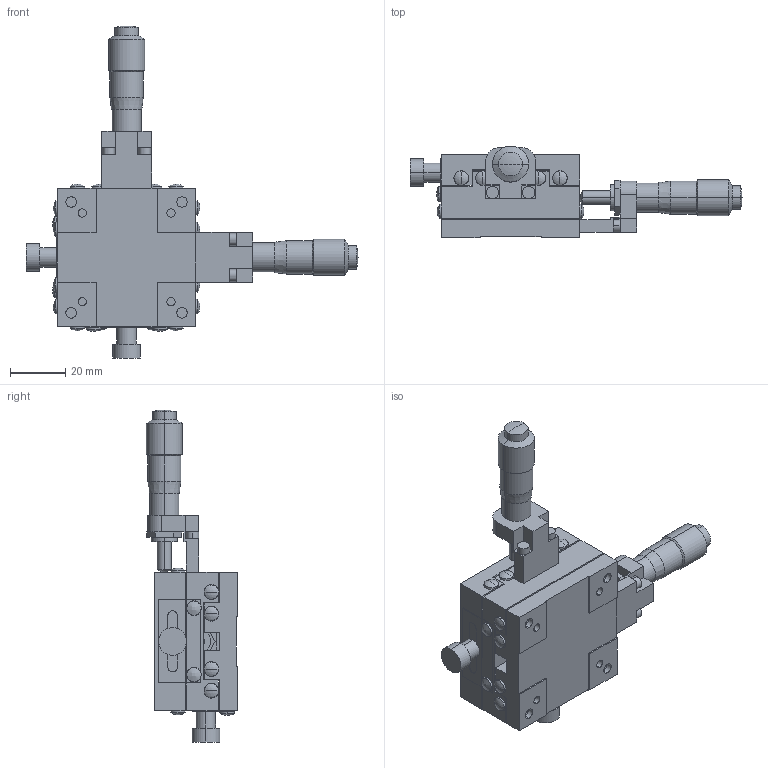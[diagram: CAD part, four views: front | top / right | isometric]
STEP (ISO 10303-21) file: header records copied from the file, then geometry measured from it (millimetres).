
FILE_DESCRIPTION (( 'STEP AP203' ), '1' );
FILE_NAME ('LD-5047-C1.STEP', '2011-07-04T04:07:16', ( ' ' ), ( ' ' ), 'SwSTEP 2.0', 'SolidWorks 2010', '' );
FILE_SCHEMA (( 'CONFIG_CONTROL_DESIGN' ));
Length unit declared in the file: millimetre
Products named in the file (4): LD-5047-C1; LD-5047-C1-1; LD-5047-C1-2; LD-5047-C1-3
Assembly tree (3 placements, depth 2):
  LD-5047-C1
    LD-5047-C1-1
    LD-5047-C1-2
    LD-5047-C1-3
Bounding box: 119.8 x 33 x 119.8 mm (x, y, z)
Volume: 82746.7 mm3; surface area: 37356.9 mm2
Topology: 5 solids, 9 shells, 396 faces, 948 edges, 594 vertices
Faces by surface type: plane 174, cylinder 120, cone 58, sphere 36, bspline 4, torus 4
Entity records: 12740 total; most frequent: CARTESIAN_POINT 2802, DIRECTION 2114, ORIENTED_EDGE 1888, EDGE_CURVE 944, AXIS2_PLACEMENT_3D 786, VERTEX_POINT 594, VECTOR 542, LINE 542
